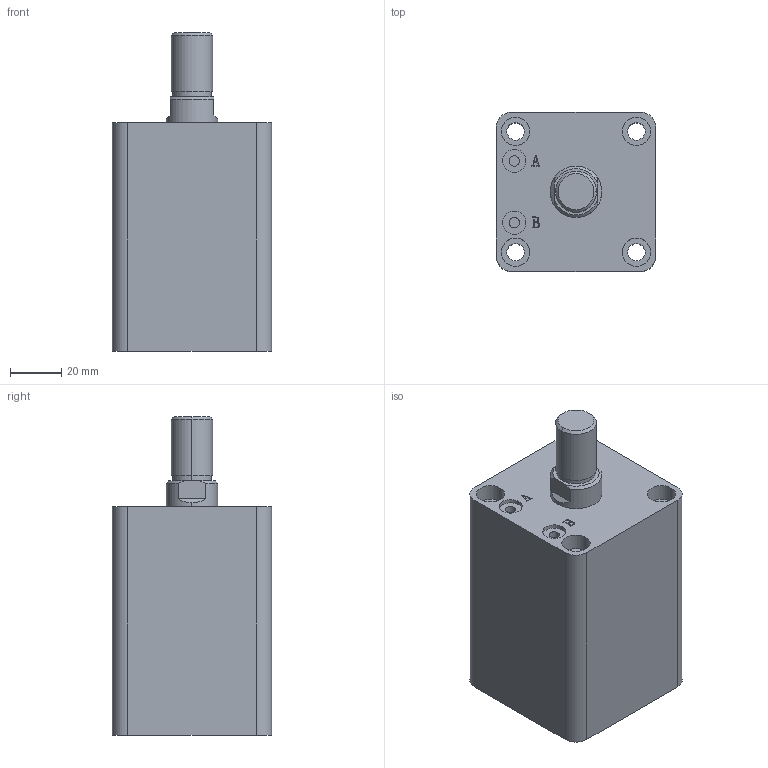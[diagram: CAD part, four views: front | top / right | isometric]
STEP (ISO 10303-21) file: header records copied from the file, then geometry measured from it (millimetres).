
FILE_DESCRIPTION (( 'STEP AP203' ), '1' );
FILE_NAME ('HTB-SDMA32-35W.STEP', '2019-10-07T11:40:14', ( '微软用户' ), ( '微软中国' ), 'SwSTEP 2.0', 'SolidWorks 2012', '' );
FILE_SCHEMA (( 'CONFIG_CONTROL_DESIGN' ));
Length unit declared in the file: millimetre
Products named in the file (3): HTB-SDMA32-35W; HTB-SDMA32-35W活塞杆; HTB-SDMA32-35掛极
Assembly tree (2 placements, depth 2):
  HTB-SDMA32-35W
    HTB-SDMA32-35掛极
    HTB-SDMA32-35W活塞杆
Bounding box: 62 x 62 x 124 mm (x, y, z)
Volume: 313666.8 mm3; surface area: 54179.5 mm2
Topology: 2 solids, 2 shells, 141 faces, 337 edges, 222 vertices
Faces by surface type: plane 67, cylinder 48, bspline 16, torus 6, cone 4
Entity records: 5176 total; most frequent: CARTESIAN_POINT 1593, ORIENTED_EDGE 674, DIRECTION 669, EDGE_CURVE 337, AXIS2_PLACEMENT_3D 242, VERTEX_POINT 222, LINE 185, VECTOR 185
